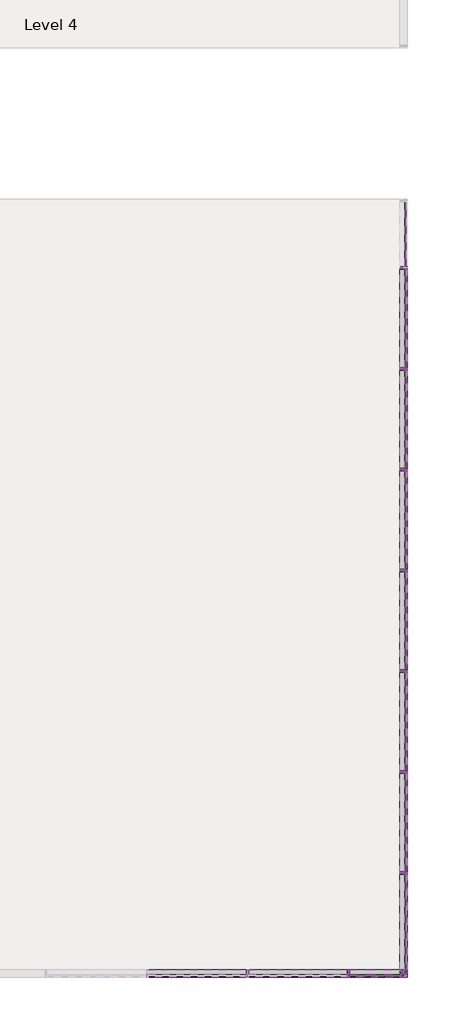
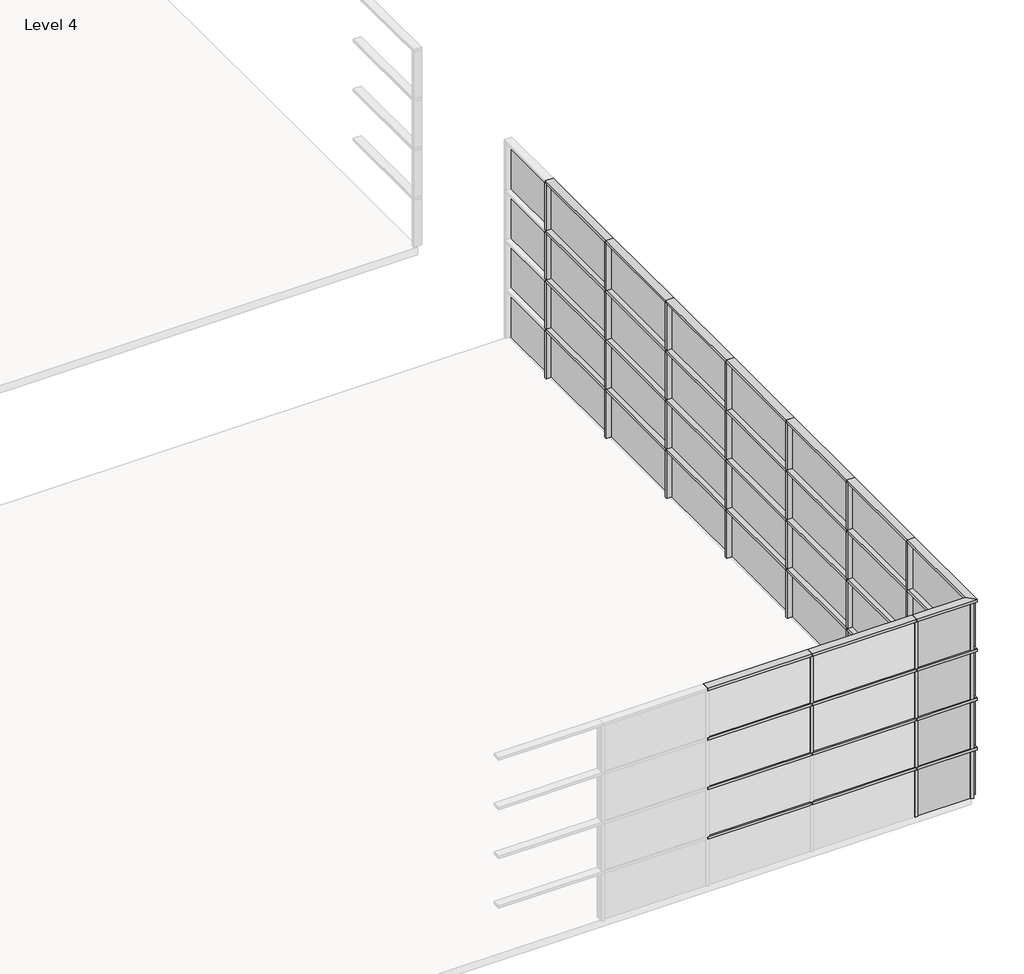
# One storey, part 3 of 5: 82 members, 36 plates.
"""IFC4 building model written with IfcOpenShell, lengths in millimetres."""

from ifc_helpers import new_model, si_unit, origin, place, context, project, spatial, transform, mapped, element, save
from components import rectangular_mullion_50_x_150mm_a053b0ca, rectangular_mullion_50_x_150mm_3a148f0f, rectangular_mullion_50_x_150mm_12a430f9, rectangular_mullion_50_x_150mm_947845bb, rectangular_mullion_50_x_150mm_f68fa77e, system_panel_glazed_751a585c, system_panel_glazed_08de6f5f, system_panel_glazed_3987acf4, system_panel_glazed_8ec8f306

model = new_model("IFC4")

# Units and contexts
model_context = context("Model", 3, world=origin())
ifc_project = project(units=[si_unit("LENGTHUNIT", "METRE", prefix="MILLI")], contexts=[model_context])

# Site, building, storey
site = spatial("IfcSite", under=ifc_project)
building = spatial("IfcBuilding", under=site)
storey = spatial("IfcBuildingStorey", under=building, Name="Level 4", Elevation=12000.0)

# Members
placement = place(None, origin())
rectangular_mullion_50_x_150mm_shape = rectangular_mullion_50_x_150mm_a053b0ca(model_context)
element("IfcMember", 1, ObjectType="Rectangular Mullion : 50 x 150mm", at=placement, inside=storey, context=model_context, shape_type="MappedRepresentation", body=[
    mapped(rectangular_mullion_50_x_150mm_shape, transform((10412.826594, -21988.7417365, 14025.0), x_axis=(1.0, 0.0, 0.0), y_axis=(0.0, -1.0, 0.0), z_axis=(0.0, 0.0, -0.9999999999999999))),
])
element("IfcMember", 2, ObjectType="Rectangular Mullion : 50 x 150mm", at=placement, inside=storey, context=model_context, shape_type="MappedRepresentation", body=[
    mapped(rectangular_mullion_50_x_150mm_shape, transform((10412.826594, -21988.7417365, 15025.0), x_axis=(1.0, 0.0, 0.0), y_axis=(0.0, -1.0, 0.0), z_axis=(0.0, 0.0, -1.0))),
])
element("IfcMember", 3, ObjectType="Rectangular Mullion : 50 x 150mm", at=placement, inside=storey, context=model_context, shape_type="MappedRepresentation", body=[
    mapped(rectangular_mullion_50_x_150mm_shape, transform((12412.826594, -21988.7417365, 12025.0), x_axis=(1.0, 0.0, 0.0), y_axis=(0.0, -1.0, 0.0), z_axis=(0.0, 0.0, -1.0))),
])
element("IfcMember", 4, ObjectType="Rectangular Mullion : 50 x 150mm", at=placement, inside=storey, context=model_context, shape_type="MappedRepresentation", body=[
    mapped(rectangular_mullion_50_x_150mm_shape, transform((12412.826594, -21988.7417365, 13025.0), x_axis=(1.0, 0.0, 0.0), y_axis=(0.0, -1.0, 0.0), z_axis=(0.0, 0.0, -1.0))),
])
element("IfcMember", 5, ObjectType="Rectangular Mullion : 50 x 150mm", at=placement, inside=storey, context=model_context, shape_type="MappedRepresentation", body=[
    mapped(rectangular_mullion_50_x_150mm_shape, transform((12412.826594, -21988.7417365, 14025.0), x_axis=(1.0, 0.0, 0.0), y_axis=(0.0, -1.0, 0.0), z_axis=(0.0, 0.0, -0.9999999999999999))),
])
element("IfcMember", 6, ObjectType="Rectangular Mullion : 50 x 150mm", at=placement, inside=storey, context=model_context, shape_type="MappedRepresentation", body=[
    mapped(rectangular_mullion_50_x_150mm_shape, transform((12412.826594, -21988.7417365, 15025.0), x_axis=(1.0, 0.0, 0.0), y_axis=(0.0, -1.0, 0.0), z_axis=(0.0, 0.0, -1.0))),
])
element("IfcMember", 7, ObjectType="Rectangular Mullion : 50 x 150mm", at=placement, inside=storey, context=model_context, shape_type="MappedRepresentation", body=[
    mapped(rectangular_mullion_50_x_150mm_shape, transform((13503.2660975, -13988.7417365, 12025.0), x_axis=(0.0, 1.0, 0.0), y_axis=(1.0, 0.0, 0.0), z_axis=(0.0, 0.0, -1.0))),
])
element("IfcMember", 8, ObjectType="Rectangular Mullion : 50 x 150mm", at=placement, inside=storey, context=model_context, shape_type="MappedRepresentation", body=[
    mapped(rectangular_mullion_50_x_150mm_shape, transform((13503.2660975, -13988.7417365, 13025.0), x_axis=(0.0, 1.0, 0.0), y_axis=(1.0, 0.0, 0.0), z_axis=(0.0, 0.0, -1.0))),
])
element("IfcMember", 9, ObjectType="Rectangular Mullion : 50 x 150mm", at=placement, inside=storey, context=model_context, shape_type="MappedRepresentation", body=[
    mapped(rectangular_mullion_50_x_150mm_shape, transform((13503.2660975, -13988.7417365, 14025.0), x_axis=(0.0, 1.0, 0.0), y_axis=(1.0, 0.0, 0.0), z_axis=(0.0, 0.0, -0.9999999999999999))),
])
element("IfcMember", 10, ObjectType="Rectangular Mullion : 50 x 150mm", at=placement, inside=storey, context=model_context, shape_type="MappedRepresentation", body=[
    mapped(rectangular_mullion_50_x_150mm_shape, transform((13503.2660975, -13988.7417365, 15025.0), x_axis=(0.0, 1.0, 0.0), y_axis=(1.0, 0.0, 0.0), z_axis=(0.0, 0.0, -1.0))),
])
element("IfcMember", 11, ObjectType="Rectangular Mullion : 50 x 150mm", at=placement, inside=storey, context=model_context, shape_type="MappedRepresentation", body=[
    mapped(rectangular_mullion_50_x_150mm_shape, transform((13503.2660975, -11988.7417365, 12025.0), x_axis=(0.0, 1.0, 0.0), y_axis=(1.0, 0.0, 0.0), z_axis=(0.0, 0.0, -1.0))),
])
element("IfcMember", 12, ObjectType="Rectangular Mullion : 50 x 150mm", at=placement, inside=storey, context=model_context, shape_type="MappedRepresentation", body=[
    mapped(rectangular_mullion_50_x_150mm_shape, transform((13503.2660975, -11988.7417365, 13025.0), x_axis=(0.0, 1.0, 0.0), y_axis=(1.0, 0.0, 0.0), z_axis=(0.0, 0.0, -1.0))),
])
element("IfcMember", 13, ObjectType="Rectangular Mullion : 50 x 150mm", at=placement, inside=storey, context=model_context, shape_type="MappedRepresentation", body=[
    mapped(rectangular_mullion_50_x_150mm_shape, transform((13503.2660975, -11988.7417365, 14025.0), x_axis=(0.0, 1.0, 0.0), y_axis=(1.0, 0.0, 0.0), z_axis=(0.0, 0.0, -0.9999999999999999))),
])
element("IfcMember", 14, ObjectType="Rectangular Mullion : 50 x 150mm", at=placement, inside=storey, context=model_context, shape_type="MappedRepresentation", body=[
    mapped(rectangular_mullion_50_x_150mm_shape, transform((13503.2660975, -11988.7417365, 15025.0), x_axis=(0.0, 1.0, 0.0), y_axis=(1.0, 0.0, 0.0), z_axis=(0.0, 0.0, -1.0))),
])
element("IfcMember", 15, ObjectType="Rectangular Mullion : 50 x 150mm", at=placement, inside=storey, context=model_context, shape_type="MappedRepresentation", body=[
    mapped(rectangular_mullion_50_x_150mm_shape, transform((13503.2660975, -9988.7417365, 12025.0), x_axis=(0.0, 1.0, 0.0), y_axis=(1.0, 0.0, 0.0), z_axis=(0.0, 0.0, -1.0))),
])
element("IfcMember", 16, ObjectType="Rectangular Mullion : 50 x 150mm", at=placement, inside=storey, context=model_context, shape_type="MappedRepresentation", body=[
    mapped(rectangular_mullion_50_x_150mm_shape, transform((13503.2660975, -9988.7417365, 13025.0), x_axis=(0.0, 1.0, 0.0), y_axis=(1.0, 0.0, 0.0), z_axis=(0.0, 0.0, -1.0))),
])
element("IfcMember", 17, ObjectType="Rectangular Mullion : 50 x 150mm", at=placement, inside=storey, context=model_context, shape_type="MappedRepresentation", body=[
    mapped(rectangular_mullion_50_x_150mm_shape, transform((13503.2660975, -9988.7417365, 14025.0), x_axis=(0.0, 1.0, 0.0), y_axis=(1.0, 0.0, 0.0), z_axis=(0.0, 0.0, -0.9999999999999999))),
])
element("IfcMember", 18, ObjectType="Rectangular Mullion : 50 x 150mm", at=placement, inside=storey, context=model_context, shape_type="MappedRepresentation", body=[
    mapped(rectangular_mullion_50_x_150mm_shape, transform((13503.2660975, -9988.7417365, 15025.0), x_axis=(0.0, 1.0, 0.0), y_axis=(1.0, 0.0, 0.0), z_axis=(0.0, 0.0, -1.0))),
])
element("IfcMember", 19, ObjectType="Rectangular Mullion : 50 x 150mm", at=placement, inside=storey, context=model_context, shape_type="MappedRepresentation", body=[
    mapped(rectangular_mullion_50_x_150mm_shape, transform((13503.2660975, -7988.7417365, 12025.0), x_axis=(0.0, 1.0, 0.0), y_axis=(1.0, 0.0, 0.0), z_axis=(0.0, 0.0, -1.0))),
])
element("IfcMember", 20, ObjectType="Rectangular Mullion : 50 x 150mm", at=placement, inside=storey, context=model_context, shape_type="MappedRepresentation", body=[
    mapped(rectangular_mullion_50_x_150mm_shape, transform((13503.2660975, -7988.7417365, 13025.0), x_axis=(0.0, 1.0, 0.0), y_axis=(1.0, 0.0, 0.0), z_axis=(0.0, 0.0, -0.9999999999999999))),
])
element("IfcMember", 21, ObjectType="Rectangular Mullion : 50 x 150mm", at=placement, inside=storey, context=model_context, shape_type="MappedRepresentation", body=[
    mapped(rectangular_mullion_50_x_150mm_shape, transform((13503.2660975, -7988.7417365, 14025.0), x_axis=(0.0, 1.0, 0.0), y_axis=(1.0, 0.0, 0.0), z_axis=(0.0, 0.0, -0.9999999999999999))),
])
element("IfcMember", 22, ObjectType="Rectangular Mullion : 50 x 150mm", at=placement, inside=storey, context=model_context, shape_type="MappedRepresentation", body=[
    mapped(rectangular_mullion_50_x_150mm_shape, transform((13503.2660975, -7988.7417365, 15025.0), x_axis=(0.0, 1.0, 0.0), y_axis=(1.0, 0.0, 0.0), z_axis=(0.0, 0.0, -1.0))),
])
element("IfcMember", 23, ObjectType="Rectangular Mullion : 50 x 150mm", at=placement, inside=storey, context=model_context, shape_type="MappedRepresentation", body=[
    mapped(rectangular_mullion_50_x_150mm_shape, transform((13503.2660975, -17988.7417365, 12025.0), x_axis=(0.0, 1.0, 0.0), y_axis=(1.0, 0.0, 0.0), z_axis=(0.0, 0.0, -1.0))),
])
element("IfcMember", 24, ObjectType="Rectangular Mullion : 50 x 150mm", at=placement, inside=storey, context=model_context, shape_type="MappedRepresentation", body=[
    mapped(rectangular_mullion_50_x_150mm_shape, transform((13503.2660975, -17988.7417365, 13025.0), x_axis=(0.0, 1.0, 0.0), y_axis=(1.0, 0.0, 0.0), z_axis=(0.0, 0.0, -1.0))),
])
element("IfcMember", 25, ObjectType="Rectangular Mullion : 50 x 150mm", at=placement, inside=storey, context=model_context, shape_type="MappedRepresentation", body=[
    mapped(rectangular_mullion_50_x_150mm_shape, transform((13503.2660975, -17988.7417365, 14025.0), x_axis=(0.0, 1.0, 0.0), y_axis=(1.0, 0.0, 0.0), z_axis=(0.0, 0.0, -1.0))),
])
element("IfcMember", 26, ObjectType="Rectangular Mullion : 50 x 150mm", at=placement, inside=storey, context=model_context, shape_type="MappedRepresentation", body=[
    mapped(rectangular_mullion_50_x_150mm_shape, transform((13503.2660975, -17988.7417365, 15025.0), x_axis=(0.0, 1.0, 0.0), y_axis=(1.0, 0.0, 0.0), z_axis=(0.0, 0.0, -1.0))),
])
element("IfcMember", 27, ObjectType="Rectangular Mullion : 50 x 150mm", at=placement, inside=storey, context=model_context, shape_type="MappedRepresentation", body=[
    mapped(rectangular_mullion_50_x_150mm_shape, transform((13503.2660975, -15988.7417365, 12025.0), x_axis=(0.0, 1.0, 0.0), y_axis=(1.0, 0.0, 0.0), z_axis=(0.0, 0.0, -1.0))),
])
element("IfcMember", 28, ObjectType="Rectangular Mullion : 50 x 150mm", at=placement, inside=storey, context=model_context, shape_type="MappedRepresentation", body=[
    mapped(rectangular_mullion_50_x_150mm_shape, transform((13503.2660975, -15988.7417365, 13025.0), x_axis=(0.0, 1.0, 0.0), y_axis=(1.0, 0.0, 0.0), z_axis=(0.0, 0.0, -1.0))),
])
element("IfcMember", 29, ObjectType="Rectangular Mullion : 50 x 150mm", at=placement, inside=storey, context=model_context, shape_type="MappedRepresentation", body=[
    mapped(rectangular_mullion_50_x_150mm_shape, transform((13503.2660975, -15988.7417365, 14025.0), x_axis=(0.0, 1.0, 0.0), y_axis=(1.0, 0.0, 0.0), z_axis=(0.0, 0.0, -1.0))),
])
element("IfcMember", 30, ObjectType="Rectangular Mullion : 50 x 150mm", at=placement, inside=storey, context=model_context, shape_type="MappedRepresentation", body=[
    mapped(rectangular_mullion_50_x_150mm_shape, transform((13503.2660975, -15988.7417365, 15025.0), x_axis=(0.0, 1.0, 0.0), y_axis=(1.0, 0.0, 0.0), z_axis=(0.0, 0.0, -1.0))),
])
element("IfcMember", 31, ObjectType="Rectangular Mullion : 50 x 150mm", at=placement, inside=storey, context=model_context, shape_type="MappedRepresentation", body=[
    mapped(rectangular_mullion_50_x_150mm_shape, transform((13503.2660975, -19988.7417365, 12025.0), x_axis=(0.0, 1.0, 0.0), y_axis=(1.0, 0.0, 0.0), z_axis=(0.0, 0.0, -1.0))),
])
element("IfcMember", 32, ObjectType="Rectangular Mullion : 50 x 150mm", at=placement, inside=storey, context=model_context, shape_type="MappedRepresentation", body=[
    mapped(rectangular_mullion_50_x_150mm_shape, transform((13503.2660975, -19988.7417365, 13025.0), x_axis=(0.0, 1.0, 0.0), y_axis=(1.0, 0.0, 0.0), z_axis=(0.0, 0.0, -1.0))),
])
element("IfcMember", 33, ObjectType="Rectangular Mullion : 50 x 150mm", at=placement, inside=storey, context=model_context, shape_type="MappedRepresentation", body=[
    mapped(rectangular_mullion_50_x_150mm_shape, transform((13503.2660975, -19988.7417365, 14025.0), x_axis=(0.0, 1.0, 0.0), y_axis=(1.0, 0.0, 0.0), z_axis=(0.0, 0.0, -1.0))),
])
element("IfcMember", 34, ObjectType="Rectangular Mullion : 50 x 150mm", at=placement, inside=storey, context=model_context, shape_type="MappedRepresentation", body=[
    mapped(rectangular_mullion_50_x_150mm_shape, transform((13503.2660975, -19988.7417365, 15025.0), x_axis=(0.0, 1.0, 0.0), y_axis=(1.0, 0.0, 0.0), z_axis=(0.0, 0.0, -1.0))),
])
rectangular_mullion_50_x_150mm_2_shape = rectangular_mullion_50_x_150mm_3a148f0f(model_context)
element("IfcMember", 35, ObjectType="Rectangular Mullion : 50 x 150mm", at=placement, inside=storey, context=model_context, shape_type="MappedRepresentation", body=[
    mapped(rectangular_mullion_50_x_150mm_2_shape, transform((10412.826594, -21988.7417365, 13000.0), x_axis=(0.0, 0.0, 1.0), y_axis=(0.0, -1.0, 0.0), z_axis=(1.0, 0.0, 0.0))),
])
element("IfcMember", 36, ObjectType="Rectangular Mullion : 50 x 150mm", at=placement, inside=storey, context=model_context, shape_type="MappedRepresentation", body=[
    mapped(rectangular_mullion_50_x_150mm_2_shape, transform((12412.826594, -21988.7417365, 13000.0), x_axis=(0.0, 0.0, 1.0), y_axis=(0.0, -1.0, 0.0), z_axis=(1.0, 0.0, 0.0))),
])
element("IfcMember", 37, ObjectType="Rectangular Mullion : 50 x 150mm", at=placement, inside=storey, context=model_context, shape_type="MappedRepresentation", body=[
    mapped(rectangular_mullion_50_x_150mm_2_shape, transform((10412.826594, -21988.7417365, 14000.0), x_axis=(0.0, 0.0, 1.0), y_axis=(0.0, -1.0, 0.0), z_axis=(1.0, 0.0, 0.0))),
])
element("IfcMember", 38, ObjectType="Rectangular Mullion : 50 x 150mm", at=placement, inside=storey, context=model_context, shape_type="MappedRepresentation", body=[
    mapped(rectangular_mullion_50_x_150mm_2_shape, transform((12412.826594, -21988.7417365, 14000.0), x_axis=(0.0, 0.0, 1.0), y_axis=(0.0, -1.0, 0.0), z_axis=(1.0, 0.0, 0.0))),
])
element("IfcMember", 39, ObjectType="Rectangular Mullion : 50 x 150mm", at=placement, inside=storey, context=model_context, shape_type="MappedRepresentation", body=[
    mapped(rectangular_mullion_50_x_150mm_2_shape, transform((10412.826594, -21988.7417365, 15000.0), x_axis=(0.0, 0.0, 1.0), y_axis=(0.0, -1.0, 0.0), z_axis=(1.0, 0.0, 0.0))),
])
element("IfcMember", 40, ObjectType="Rectangular Mullion : 50 x 150mm", at=placement, inside=storey, context=model_context, shape_type="MappedRepresentation", body=[
    mapped(rectangular_mullion_50_x_150mm_2_shape, transform((12412.826594, -21988.7417365, 15000.0), x_axis=(0.0, 0.0, 1.0), y_axis=(0.0, -1.0, 0.0), z_axis=(1.0, 0.0, 0.0))),
])
element("IfcMember", 41, ObjectType="Rectangular Mullion : 50 x 150mm", at=placement, inside=storey, context=model_context, shape_type="MappedRepresentation", body=[
    mapped(rectangular_mullion_50_x_150mm_2_shape, transform((10412.826594, -21988.7417365, 16000.0), x_axis=(0.0, 0.0, 1.0), y_axis=(0.0, -1.0, 0.0), z_axis=(1.0, 0.0, 0.0))),
])
element("IfcMember", 42, ObjectType="Rectangular Mullion : 50 x 150mm", at=placement, inside=storey, context=model_context, shape_type="MappedRepresentation", body=[
    mapped(rectangular_mullion_50_x_150mm_2_shape, transform((12412.826594, -21988.7417365, 16000.0), x_axis=(0.0, 0.0, 1.0), y_axis=(0.0, -1.0, 0.0), z_axis=(1.0, 0.0, 0.0))),
])
element("IfcMember", 43, ObjectType="Rectangular Mullion : 50 x 150mm", at=placement, inside=storey, context=model_context, shape_type="MappedRepresentation", body=[
    mapped(rectangular_mullion_50_x_150mm_2_shape, transform((13503.2660975, -17988.7417365, 13000.0), x_axis=(0.0, 0.0, 1.0), y_axis=(1.0, 0.0, 0.0), z_axis=(0.0, 1.0, 0.0))),
])
element("IfcMember", 44, ObjectType="Rectangular Mullion : 50 x 150mm", at=placement, inside=storey, context=model_context, shape_type="MappedRepresentation", body=[
    mapped(rectangular_mullion_50_x_150mm_2_shape, transform((13503.2660975, -15988.7417365, 13000.0), x_axis=(0.0, 0.0, 1.0), y_axis=(1.0, 0.0, 0.0), z_axis=(0.0, 1.0, 0.0))),
])
element("IfcMember", 45, ObjectType="Rectangular Mullion : 50 x 150mm", at=placement, inside=storey, context=model_context, shape_type="MappedRepresentation", body=[
    mapped(rectangular_mullion_50_x_150mm_2_shape, transform((13503.2660975, -13988.7417365, 13000.0), x_axis=(0.0, 0.0, 1.0), y_axis=(1.0, 0.0, 0.0), z_axis=(0.0, 1.0, 0.0))),
])
element("IfcMember", 46, ObjectType="Rectangular Mullion : 50 x 150mm", at=placement, inside=storey, context=model_context, shape_type="MappedRepresentation", body=[
    mapped(rectangular_mullion_50_x_150mm_2_shape, transform((13503.2660975, -11988.7417365, 13000.0), x_axis=(0.0, 0.0, 1.0), y_axis=(1.0, 0.0, 0.0), z_axis=(0.0, 1.0, 0.0))),
])
element("IfcMember", 47, ObjectType="Rectangular Mullion : 50 x 150mm", at=placement, inside=storey, context=model_context, shape_type="MappedRepresentation", body=[
    mapped(rectangular_mullion_50_x_150mm_2_shape, transform((13503.2660975, -9988.7417365, 13000.0), x_axis=(0.0, 0.0, 1.0), y_axis=(1.0, 0.0, 0.0), z_axis=(0.0, 1.0, 0.0))),
])
element("IfcMember", 48, ObjectType="Rectangular Mullion : 50 x 150mm", at=placement, inside=storey, context=model_context, shape_type="MappedRepresentation", body=[
    mapped(rectangular_mullion_50_x_150mm_2_shape, transform((13503.2660975, -7988.7417365, 13000.0), x_axis=(0.0, 0.0, 1.0), y_axis=(1.0, 0.0, 0.0), z_axis=(0.0, 1.0, 0.0))),
])
element("IfcMember", 49, ObjectType="Rectangular Mullion : 50 x 150mm", at=placement, inside=storey, context=model_context, shape_type="MappedRepresentation", body=[
    mapped(rectangular_mullion_50_x_150mm_2_shape, transform((13503.2660975, -17988.7417365, 14000.0), x_axis=(0.0, 0.0, 1.0), y_axis=(1.0, 0.0, 0.0), z_axis=(0.0, 1.0, 0.0))),
])
element("IfcMember", 50, ObjectType="Rectangular Mullion : 50 x 150mm", at=placement, inside=storey, context=model_context, shape_type="MappedRepresentation", body=[
    mapped(rectangular_mullion_50_x_150mm_2_shape, transform((13503.2660975, -15988.7417365, 14000.0), x_axis=(0.0, 0.0, 1.0), y_axis=(1.0, 0.0, 0.0), z_axis=(0.0, 1.0, 0.0))),
])
element("IfcMember", 51, ObjectType="Rectangular Mullion : 50 x 150mm", at=placement, inside=storey, context=model_context, shape_type="MappedRepresentation", body=[
    mapped(rectangular_mullion_50_x_150mm_2_shape, transform((13503.2660975, -13988.7417365, 14000.0), x_axis=(0.0, 0.0, 1.0), y_axis=(1.0, 0.0, 0.0), z_axis=(0.0, 1.0, 0.0))),
])
element("IfcMember", 52, ObjectType="Rectangular Mullion : 50 x 150mm", at=placement, inside=storey, context=model_context, shape_type="MappedRepresentation", body=[
    mapped(rectangular_mullion_50_x_150mm_2_shape, transform((13503.2660975, -11988.7417365, 14000.0), x_axis=(0.0, 0.0, 1.0), y_axis=(1.0, 0.0, 0.0), z_axis=(0.0, 1.0, 0.0))),
])
element("IfcMember", 53, ObjectType="Rectangular Mullion : 50 x 150mm", at=placement, inside=storey, context=model_context, shape_type="MappedRepresentation", body=[
    mapped(rectangular_mullion_50_x_150mm_2_shape, transform((13503.2660975, -9988.7417365, 14000.0), x_axis=(0.0, 0.0, 1.0), y_axis=(1.0, 0.0, 0.0), z_axis=(0.0, 1.0, 0.0))),
])
element("IfcMember", 54, ObjectType="Rectangular Mullion : 50 x 150mm", at=placement, inside=storey, context=model_context, shape_type="MappedRepresentation", body=[
    mapped(rectangular_mullion_50_x_150mm_2_shape, transform((13503.2660975, -7988.7417365, 14000.0), x_axis=(0.0, 0.0, 1.0), y_axis=(1.0, 0.0, 0.0), z_axis=(0.0, 1.0, 0.0))),
])
element("IfcMember", 55, ObjectType="Rectangular Mullion : 50 x 150mm", at=placement, inside=storey, context=model_context, shape_type="MappedRepresentation", body=[
    mapped(rectangular_mullion_50_x_150mm_2_shape, transform((13503.2660975, -17988.7417365, 15000.0), x_axis=(0.0, 0.0, 1.0), y_axis=(1.0, 0.0, 0.0), z_axis=(0.0, 1.0, 0.0))),
])
element("IfcMember", 56, ObjectType="Rectangular Mullion : 50 x 150mm", at=placement, inside=storey, context=model_context, shape_type="MappedRepresentation", body=[
    mapped(rectangular_mullion_50_x_150mm_2_shape, transform((13503.2660975, -15988.7417365, 15000.0), x_axis=(0.0, 0.0, 1.0), y_axis=(1.0, 0.0, 0.0), z_axis=(0.0, 1.0, 0.0))),
])
element("IfcMember", 57, ObjectType="Rectangular Mullion : 50 x 150mm", at=placement, inside=storey, context=model_context, shape_type="MappedRepresentation", body=[
    mapped(rectangular_mullion_50_x_150mm_2_shape, transform((13503.2660975, -13988.7417365, 15000.0), x_axis=(0.0, 0.0, 1.0), y_axis=(1.0, 0.0, 0.0), z_axis=(0.0, 1.0, 0.0))),
])
element("IfcMember", 58, ObjectType="Rectangular Mullion : 50 x 150mm", at=placement, inside=storey, context=model_context, shape_type="MappedRepresentation", body=[
    mapped(rectangular_mullion_50_x_150mm_2_shape, transform((13503.2660975, -11988.7417365, 15000.0), x_axis=(0.0, 0.0, 1.0), y_axis=(1.0, 0.0, 0.0), z_axis=(0.0, 1.0, 0.0))),
])
element("IfcMember", 59, ObjectType="Rectangular Mullion : 50 x 150mm", at=placement, inside=storey, context=model_context, shape_type="MappedRepresentation", body=[
    mapped(rectangular_mullion_50_x_150mm_2_shape, transform((13503.2660975, -9988.7417365, 15000.0), x_axis=(0.0, 0.0, 1.0), y_axis=(1.0, 0.0, 0.0), z_axis=(0.0, 1.0, 0.0))),
])
element("IfcMember", 60, ObjectType="Rectangular Mullion : 50 x 150mm", at=placement, inside=storey, context=model_context, shape_type="MappedRepresentation", body=[
    mapped(rectangular_mullion_50_x_150mm_2_shape, transform((13503.2660975, -7988.7417365, 15000.0), x_axis=(0.0, 0.0, 1.0), y_axis=(1.0, 0.0, 0.0), z_axis=(0.0, 1.0, 0.0))),
])
element("IfcMember", 61, ObjectType="Rectangular Mullion : 50 x 150mm", at=placement, inside=storey, context=model_context, shape_type="MappedRepresentation", body=[
    mapped(rectangular_mullion_50_x_150mm_2_shape, transform((13503.2660975, -17988.7417365, 16000.0), x_axis=(0.0, 0.0, 1.0), y_axis=(1.0, 0.0, 0.0), z_axis=(0.0, 1.0, 0.0))),
])
element("IfcMember", 62, ObjectType="Rectangular Mullion : 50 x 150mm", at=placement, inside=storey, context=model_context, shape_type="MappedRepresentation", body=[
    mapped(rectangular_mullion_50_x_150mm_2_shape, transform((13503.2660975, -15988.7417365, 16000.0), x_axis=(0.0, 0.0, 1.0), y_axis=(1.0, 0.0, 0.0), z_axis=(0.0, 1.0, 0.0))),
])
element("IfcMember", 63, ObjectType="Rectangular Mullion : 50 x 150mm", at=placement, inside=storey, context=model_context, shape_type="MappedRepresentation", body=[
    mapped(rectangular_mullion_50_x_150mm_2_shape, transform((13503.2660975, -13988.7417365, 16000.0), x_axis=(0.0, 0.0, 1.0), y_axis=(1.0, 0.0, 0.0), z_axis=(0.0, 1.0, 0.0))),
])
element("IfcMember", 64, ObjectType="Rectangular Mullion : 50 x 150mm", at=placement, inside=storey, context=model_context, shape_type="MappedRepresentation", body=[
    mapped(rectangular_mullion_50_x_150mm_2_shape, transform((13503.2660975, -11988.7417365, 16000.0), x_axis=(0.0, 0.0, 1.0), y_axis=(1.0, 0.0, 0.0), z_axis=(0.0, 1.0, 0.0))),
])
element("IfcMember", 65, ObjectType="Rectangular Mullion : 50 x 150mm", at=placement, inside=storey, context=model_context, shape_type="MappedRepresentation", body=[
    mapped(rectangular_mullion_50_x_150mm_2_shape, transform((13503.2660975, -9988.7417365, 16000.0), x_axis=(0.0, 0.0, 1.0), y_axis=(1.0, 0.0, 0.0), z_axis=(0.0, 1.0, 0.0))),
])
element("IfcMember", 66, ObjectType="Rectangular Mullion : 50 x 150mm", at=placement, inside=storey, context=model_context, shape_type="MappedRepresentation", body=[
    mapped(rectangular_mullion_50_x_150mm_2_shape, transform((13503.2660975, -7988.7417365, 16000.0), x_axis=(0.0, 0.0, 1.0), y_axis=(1.0, 0.0, 0.0), z_axis=(0.0, 1.0, 0.0))),
])
rectangular_mullion_50_x_150mm_3_shape = rectangular_mullion_50_x_150mm_12a430f9(model_context)
element("IfcMember", 67, ObjectType="Rectangular Mullion : 50 x 150mm", at=placement, inside=storey, context=model_context, shape_type="MappedRepresentation", body=[
    mapped(rectangular_mullion_50_x_150mm_3_shape, transform((13503.2660975, -21988.7417365, 12975.0), x_axis=(0.0, -1.0, 0.0), y_axis=(1.0, 0.0, 0.0), z_axis=(0.0, 0.0, 1.0))),
])
element("IfcMember", 68, ObjectType="Rectangular Mullion : 50 x 150mm", at=placement, inside=storey, context=model_context, shape_type="MappedRepresentation", body=[
    mapped(rectangular_mullion_50_x_150mm_3_shape, transform((13503.2660975, -21988.7417365, 13975.0), x_axis=(0.0, -1.0, 0.0), y_axis=(1.0, 0.0, 0.0), z_axis=(0.0, 0.0, 1.0))),
])
element("IfcMember", 69, ObjectType="Rectangular Mullion : 50 x 150mm", at=placement, inside=storey, context=model_context, shape_type="MappedRepresentation", body=[
    mapped(rectangular_mullion_50_x_150mm_3_shape, transform((13503.2660975, -21988.7417365, 14975.0), x_axis=(0.0, -1.0, 0.0), y_axis=(1.0, 0.0, 0.0), z_axis=(0.0, 0.0, 1.0))),
])
element("IfcMember", 70, ObjectType="Rectangular Mullion : 50 x 150mm", at=placement, inside=storey, context=model_context, shape_type="MappedRepresentation", body=[
    mapped(rectangular_mullion_50_x_150mm_3_shape, transform((13503.2660975, -21988.7417365, 15975.0), x_axis=(0.0, -1.0, 0.0), y_axis=(1.0, 0.0, 0.0), z_axis=(0.0, 0.0, 1.0))),
])
element("IfcMember", 71, ObjectType="Rectangular Mullion : 50 x 150mm", at=placement, inside=storey, context=model_context, shape_type="MappedRepresentation", body=[
    mapped(rectangular_mullion_50_x_150mm_3_shape, transform((13503.2660975, -21988.7417365, 12025.0), x_axis=(1.0, 0.0, 0.0), y_axis=(0.0, -1.0, 0.0), z_axis=(0.0, 0.0, -1.0))),
])
element("IfcMember", 72, ObjectType="Rectangular Mullion : 50 x 150mm", at=placement, inside=storey, context=model_context, shape_type="MappedRepresentation", body=[
    mapped(rectangular_mullion_50_x_150mm_3_shape, transform((13503.2660975, -21988.7417365, 13025.0), x_axis=(1.0, 0.0, 0.0), y_axis=(0.0, -1.0, 0.0), z_axis=(0.0, 0.0, -1.0))),
])
element("IfcMember", 73, ObjectType="Rectangular Mullion : 50 x 150mm", at=placement, inside=storey, context=model_context, shape_type="MappedRepresentation", body=[
    mapped(rectangular_mullion_50_x_150mm_3_shape, transform((13503.2660975, -21988.7417365, 14025.0), x_axis=(1.0, 0.0, 0.0), y_axis=(0.0, -1.0, 0.0), z_axis=(0.0, 0.0, -1.0))),
])
element("IfcMember", 74, ObjectType="Rectangular Mullion : 50 x 150mm", at=placement, inside=storey, context=model_context, shape_type="MappedRepresentation", body=[
    mapped(rectangular_mullion_50_x_150mm_3_shape, transform((13503.2660975, -21988.7417365, 15025.0), x_axis=(1.0, 0.0, 0.0), y_axis=(0.0, -1.0, 0.0), z_axis=(0.0, 0.0, -1.0))),
])
rectangular_mullion_50_x_150mm_4_shape = rectangular_mullion_50_x_150mm_947845bb(model_context)
element("IfcMember", 75, ObjectType="Rectangular Mullion : 50 x 150mm", at=placement, inside=storey, context=model_context, shape_type="MappedRepresentation", body=[
    mapped(rectangular_mullion_50_x_150mm_4_shape, transform((13503.2660975, -19988.7417365, 13000.0), x_axis=(0.0, 0.0, 1.0), y_axis=(1.0, 0.0, 0.0), z_axis=(0.0, 1.0, 0.0))),
])
element("IfcMember", 76, ObjectType="Rectangular Mullion : 50 x 150mm", at=placement, inside=storey, context=model_context, shape_type="MappedRepresentation", body=[
    mapped(rectangular_mullion_50_x_150mm_4_shape, transform((13503.2660975, -19988.7417365, 14000.0), x_axis=(0.0, 0.0, 1.0), y_axis=(1.0, 0.0, 0.0), z_axis=(0.0, 1.0, 0.0))),
])
element("IfcMember", 77, ObjectType="Rectangular Mullion : 50 x 150mm", at=placement, inside=storey, context=model_context, shape_type="MappedRepresentation", body=[
    mapped(rectangular_mullion_50_x_150mm_4_shape, transform((13503.2660975, -19988.7417365, 15000.0), x_axis=(0.0, 0.0, 1.0), y_axis=(1.0, 0.0, 0.0), z_axis=(0.0, 1.0, 0.0))),
])
element("IfcMember", 78, ObjectType="Rectangular Mullion : 50 x 150mm", at=placement, inside=storey, context=model_context, shape_type="MappedRepresentation", body=[
    mapped(rectangular_mullion_50_x_150mm_4_shape, transform((13503.2660975, -19988.7417365, 16000.0), x_axis=(0.0, 0.0, 1.0), y_axis=(1.0, 0.0, 0.0), z_axis=(0.0, 1.0, 0.0))),
])
rectangular_mullion_50_x_150mm_5_shape = rectangular_mullion_50_x_150mm_f68fa77e(model_context)
element("IfcMember", 79, ObjectType="Rectangular Mullion : 50 x 150mm", at=placement, inside=storey, context=model_context, shape_type="MappedRepresentation", body=[
    mapped(rectangular_mullion_50_x_150mm_5_shape, transform((13503.2660975, -21988.7417365, 13000.0), x_axis=(0.0, 0.0, 1.0), y_axis=(0.0, -1.0, 0.0), z_axis=(0.9999999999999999, 0.0, 0.0))),
])
element("IfcMember", 80, ObjectType="Rectangular Mullion : 50 x 150mm", at=placement, inside=storey, context=model_context, shape_type="MappedRepresentation", body=[
    mapped(rectangular_mullion_50_x_150mm_5_shape, transform((13503.2660975, -21988.7417365, 14000.0), x_axis=(0.0, 0.0, 1.0), y_axis=(0.0, -1.0, 0.0), z_axis=(0.9999999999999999, 0.0, 0.0))),
])
element("IfcMember", 81, ObjectType="Rectangular Mullion : 50 x 150mm", at=placement, inside=storey, context=model_context, shape_type="MappedRepresentation", body=[
    mapped(rectangular_mullion_50_x_150mm_5_shape, transform((13503.2660975, -21988.7417365, 15000.0), x_axis=(0.0, 0.0, 1.0), y_axis=(0.0, -1.0, 0.0), z_axis=(0.9999999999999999, 0.0, 0.0))),
])
element("IfcMember", 82, ObjectType="Rectangular Mullion : 50 x 150mm", at=placement, inside=storey, context=model_context, shape_type="MappedRepresentation", body=[
    mapped(rectangular_mullion_50_x_150mm_5_shape, transform((13503.2660975, -21988.7417365, 16000.0), x_axis=(0.0, 0.0, 1.0), y_axis=(0.0, -1.0, 0.0), z_axis=(0.9999999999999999, 0.0, 0.0))),
])

# Plates
system_panel_glazed_shape = system_panel_glazed_751a585c(model_context)
element("IfcPlate", 83, ObjectType="System Panel : Glazed", at=placement, inside=storey, context=model_context, shape_type="MappedRepresentation", body=[
    mapped(system_panel_glazed_shape, transform((13503.2660975, -21938.7417365, 12500.0), x_axis=(0.0, 0.0, 1.0), y_axis=(1.0, 0.0, 0.0), z_axis=(0.0, 1.0, 0.0))),
])
element("IfcPlate", 84, ObjectType="System Panel : Glazed", at=placement, inside=storey, context=model_context, shape_type="MappedRepresentation", body=[
    mapped(system_panel_glazed_shape, transform((13503.2660975, -21938.7417365, 13500.0), x_axis=(0.0, 0.0, 1.0), y_axis=(1.0, 0.0, 0.0), z_axis=(0.0, 1.0, 0.0))),
])
element("IfcPlate", 85, ObjectType="System Panel : Glazed", at=placement, inside=storey, context=model_context, shape_type="MappedRepresentation", body=[
    mapped(system_panel_glazed_shape, transform((13503.2660975, -21938.7417365, 14500.0), x_axis=(0.0, 0.0, 1.0), y_axis=(1.0, 0.0, 0.0), z_axis=(0.0, 1.0, 0.0))),
])
element("IfcPlate", 86, ObjectType="System Panel : Glazed", at=placement, inside=storey, context=model_context, shape_type="MappedRepresentation", body=[
    mapped(system_panel_glazed_shape, transform((13503.2660975, -21938.7417365, 15500.0), x_axis=(0.0, 0.0, 1.0), y_axis=(1.0, 0.0, 0.0), z_axis=(0.0, 1.0, 0.0))),
])
system_panel_glazed_2_shape = system_panel_glazed_08de6f5f(model_context)
element("IfcPlate", 87, ObjectType="System Panel : Glazed", at=placement, inside=storey, context=model_context, shape_type="MappedRepresentation", body=[
    mapped(system_panel_glazed_2_shape, transform((13503.2660975, -19963.7417365, 12500.0), x_axis=(0.0, 0.0, 1.0), y_axis=(1.0, 0.0, 0.0), z_axis=(0.0, 1.0, 0.0))),
])
element("IfcPlate", 88, ObjectType="System Panel : Glazed", at=placement, inside=storey, context=model_context, shape_type="MappedRepresentation", body=[
    mapped(system_panel_glazed_2_shape, transform((13503.2660975, -17963.7417365, 12500.0), x_axis=(0.0, 0.0, 1.0), y_axis=(1.0, 0.0, 0.0), z_axis=(0.0, 1.0, 0.0))),
])
element("IfcPlate", 89, ObjectType="System Panel : Glazed", at=placement, inside=storey, context=model_context, shape_type="MappedRepresentation", body=[
    mapped(system_panel_glazed_2_shape, transform((13503.2660975, -15963.7417365, 12500.0), x_axis=(0.0, 0.0, 1.0), y_axis=(1.0, 0.0, 0.0), z_axis=(0.0, 1.0, 0.0))),
])
element("IfcPlate", 90, ObjectType="System Panel : Glazed", at=placement, inside=storey, context=model_context, shape_type="MappedRepresentation", body=[
    mapped(system_panel_glazed_2_shape, transform((13503.2660975, -13963.7417365, 12500.0), x_axis=(0.0, 0.0, 1.0), y_axis=(1.0, 0.0, 0.0), z_axis=(0.0, 1.0, 0.0))),
])
element("IfcPlate", 91, ObjectType="System Panel : Glazed", at=placement, inside=storey, context=model_context, shape_type="MappedRepresentation", body=[
    mapped(system_panel_glazed_2_shape, transform((13503.2660975, -11963.7417365, 12500.0), x_axis=(0.0, 0.0, 1.0), y_axis=(1.0, 0.0, 0.0), z_axis=(0.0, 1.0, 0.0))),
])
element("IfcPlate", 92, ObjectType="System Panel : Glazed", at=placement, inside=storey, context=model_context, shape_type="MappedRepresentation", body=[
    mapped(system_panel_glazed_2_shape, transform((13503.2660975, -9963.7417365, 12500.0), x_axis=(0.0, 0.0, 1.0), y_axis=(1.0, 0.0, 0.0), z_axis=(0.0, 1.0, 0.0))),
])
element("IfcPlate", 93, ObjectType="System Panel : Glazed", at=placement, inside=storey, context=model_context, shape_type="MappedRepresentation", body=[
    mapped(system_panel_glazed_2_shape, transform((13503.2660975, -19963.7417365, 13500.0), x_axis=(0.0, 0.0, 1.0), y_axis=(1.0, 0.0, 0.0), z_axis=(0.0, 1.0, 0.0))),
])
element("IfcPlate", 94, ObjectType="System Panel : Glazed", at=placement, inside=storey, context=model_context, shape_type="MappedRepresentation", body=[
    mapped(system_panel_glazed_2_shape, transform((13503.2660975, -17963.7417365, 13500.0), x_axis=(0.0, 0.0, 1.0), y_axis=(1.0, 0.0, 0.0), z_axis=(0.0, 1.0, 0.0))),
])
element("IfcPlate", 95, ObjectType="System Panel : Glazed", at=placement, inside=storey, context=model_context, shape_type="MappedRepresentation", body=[
    mapped(system_panel_glazed_2_shape, transform((13503.2660975, -15963.7417365, 13500.0), x_axis=(0.0, 0.0, 1.0), y_axis=(1.0, 0.0, 0.0), z_axis=(0.0, 1.0, 0.0))),
])
element("IfcPlate", 96, ObjectType="System Panel : Glazed", at=placement, inside=storey, context=model_context, shape_type="MappedRepresentation", body=[
    mapped(system_panel_glazed_2_shape, transform((13503.2660975, -13963.7417365, 13500.0), x_axis=(0.0, 0.0, 1.0), y_axis=(1.0, 0.0, 0.0), z_axis=(0.0, 1.0, 0.0))),
])
element("IfcPlate", 97, ObjectType="System Panel : Glazed", at=placement, inside=storey, context=model_context, shape_type="MappedRepresentation", body=[
    mapped(system_panel_glazed_2_shape, transform((13503.2660975, -11963.7417365, 13500.0), x_axis=(0.0, 0.0, 1.0), y_axis=(1.0, 0.0, 0.0), z_axis=(0.0, 1.0, 0.0))),
])
element("IfcPlate", 98, ObjectType="System Panel : Glazed", at=placement, inside=storey, context=model_context, shape_type="MappedRepresentation", body=[
    mapped(system_panel_glazed_2_shape, transform((13503.2660975, -9963.7417365, 13500.0), x_axis=(0.0, 0.0, 1.0), y_axis=(1.0, 0.0, 0.0), z_axis=(0.0, 1.0, 0.0))),
])
element("IfcPlate", 99, ObjectType="System Panel : Glazed", at=placement, inside=storey, context=model_context, shape_type="MappedRepresentation", body=[
    mapped(system_panel_glazed_2_shape, transform((13503.2660975, -19963.7417365, 14500.0), x_axis=(0.0, 0.0, 1.0), y_axis=(1.0, 0.0, 0.0), z_axis=(0.0, 1.0, 0.0))),
])
element("IfcPlate", 100, ObjectType="System Panel : Glazed", at=placement, inside=storey, context=model_context, shape_type="MappedRepresentation", body=[
    mapped(system_panel_glazed_2_shape, transform((13503.2660975, -17963.7417365, 14500.0), x_axis=(0.0, 0.0, 1.0), y_axis=(1.0, 0.0, 0.0), z_axis=(0.0, 1.0, 0.0))),
])
element("IfcPlate", 101, ObjectType="System Panel : Glazed", at=placement, inside=storey, context=model_context, shape_type="MappedRepresentation", body=[
    mapped(system_panel_glazed_2_shape, transform((13503.2660975, -15963.7417365, 14500.0), x_axis=(0.0, 0.0, 1.0), y_axis=(1.0, 0.0, 0.0), z_axis=(0.0, 1.0, 0.0))),
])
element("IfcPlate", 102, ObjectType="System Panel : Glazed", at=placement, inside=storey, context=model_context, shape_type="MappedRepresentation", body=[
    mapped(system_panel_glazed_2_shape, transform((13503.2660975, -13963.7417365, 14500.0), x_axis=(0.0, 0.0, 1.0), y_axis=(1.0, 0.0, 0.0), z_axis=(0.0, 1.0, 0.0))),
])
element("IfcPlate", 103, ObjectType="System Panel : Glazed", at=placement, inside=storey, context=model_context, shape_type="MappedRepresentation", body=[
    mapped(system_panel_glazed_2_shape, transform((13503.2660975, -11963.7417365, 14500.0), x_axis=(0.0, 0.0, 1.0), y_axis=(1.0, 0.0, 0.0), z_axis=(0.0, 1.0, 0.0))),
])
element("IfcPlate", 104, ObjectType="System Panel : Glazed", at=placement, inside=storey, context=model_context, shape_type="MappedRepresentation", body=[
    mapped(system_panel_glazed_2_shape, transform((13503.2660975, -9963.7417365, 14500.0), x_axis=(0.0, 0.0, 1.0), y_axis=(1.0, 0.0, 0.0), z_axis=(0.0, 1.0, 0.0))),
])
element("IfcPlate", 105, ObjectType="System Panel : Glazed", at=placement, inside=storey, context=model_context, shape_type="MappedRepresentation", body=[
    mapped(system_panel_glazed_2_shape, transform((13503.2660975, -19963.7417365, 15500.0), x_axis=(0.0, 0.0, 1.0), y_axis=(1.0, 0.0, 0.0), z_axis=(0.0, 1.0, 0.0))),
])
element("IfcPlate", 106, ObjectType="System Panel : Glazed", at=placement, inside=storey, context=model_context, shape_type="MappedRepresentation", body=[
    mapped(system_panel_glazed_2_shape, transform((13503.2660975, -17963.7417365, 15500.0), x_axis=(0.0, 0.0, 1.0), y_axis=(1.0, 0.0, 0.0), z_axis=(0.0, 1.0, 0.0))),
])
element("IfcPlate", 107, ObjectType="System Panel : Glazed", at=placement, inside=storey, context=model_context, shape_type="MappedRepresentation", body=[
    mapped(system_panel_glazed_2_shape, transform((13503.2660975, -15963.7417365, 15500.0), x_axis=(0.0, 0.0, 1.0), y_axis=(1.0, 0.0, 0.0), z_axis=(0.0, 1.0, 0.0))),
])
element("IfcPlate", 108, ObjectType="System Panel : Glazed", at=placement, inside=storey, context=model_context, shape_type="MappedRepresentation", body=[
    mapped(system_panel_glazed_2_shape, transform((13503.2660975, -13963.7417365, 15500.0), x_axis=(0.0, 0.0, 1.0), y_axis=(1.0, 0.0, 0.0), z_axis=(0.0, 1.0, 0.0))),
])
element("IfcPlate", 109, ObjectType="System Panel : Glazed", at=placement, inside=storey, context=model_context, shape_type="MappedRepresentation", body=[
    mapped(system_panel_glazed_2_shape, transform((13503.2660975, -11963.7417365, 15500.0), x_axis=(0.0, 0.0, 1.0), y_axis=(1.0, 0.0, 0.0), z_axis=(0.0, 1.0, 0.0))),
])
element("IfcPlate", 110, ObjectType="System Panel : Glazed", at=placement, inside=storey, context=model_context, shape_type="MappedRepresentation", body=[
    mapped(system_panel_glazed_2_shape, transform((13503.2660975, -9963.7417365, 15500.0), x_axis=(0.0, 0.0, 1.0), y_axis=(1.0, 0.0, 0.0), z_axis=(0.0, 1.0, 0.0))),
])
system_panel_glazed_3_shape = system_panel_glazed_3987acf4(model_context)
element("IfcPlate", 111, ObjectType="System Panel : Glazed", at=placement, inside=storey, context=model_context, shape_type="MappedRepresentation", body=[
    mapped(system_panel_glazed_3_shape, transform((12437.826594, -21988.7417365, 12500.0), x_axis=(0.0, 0.0, 1.0), y_axis=(0.0, -1.0, 0.0), z_axis=(1.0, 0.0, 0.0))),
])
element("IfcPlate", 112, ObjectType="System Panel : Glazed", at=placement, inside=storey, context=model_context, shape_type="MappedRepresentation", body=[
    mapped(system_panel_glazed_3_shape, transform((12437.826594, -21988.7417365, 13500.0), x_axis=(0.0, 0.0, 1.0), y_axis=(0.0, -1.0, 0.0), z_axis=(1.0, 0.0, 0.0))),
])
element("IfcPlate", 113, ObjectType="System Panel : Glazed", at=placement, inside=storey, context=model_context, shape_type="MappedRepresentation", body=[
    mapped(system_panel_glazed_3_shape, transform((12437.826594, -21988.7417365, 14500.0), x_axis=(0.0, 0.0, 1.0), y_axis=(0.0, -1.0, 0.0), z_axis=(1.0, 0.0, 0.0))),
])
element("IfcPlate", 114, ObjectType="System Panel : Glazed", at=placement, inside=storey, context=model_context, shape_type="MappedRepresentation", body=[
    mapped(system_panel_glazed_3_shape, transform((12437.826594, -21988.7417365, 15500.0), x_axis=(0.0, 0.0, 1.0), y_axis=(0.0, -1.0, 0.0), z_axis=(1.0, 0.0, 0.0))),
])
system_panel_glazed_4_shape = system_panel_glazed_8ec8f306(model_context)
element("IfcPlate", 115, ObjectType="System Panel : Glazed", at=placement, inside=storey, context=model_context, shape_type="MappedRepresentation", body=[
    mapped(system_panel_glazed_4_shape, transform((13503.2660975, -7963.7417365, 12500.0), x_axis=(0.0, 0.0, 1.0), y_axis=(1.0, 0.0, 0.0), z_axis=(0.0, 1.0, 0.0))),
])
element("IfcPlate", 116, ObjectType="System Panel : Glazed", at=placement, inside=storey, context=model_context, shape_type="MappedRepresentation", body=[
    mapped(system_panel_glazed_4_shape, transform((13503.2660975, -7963.7417365, 13500.0), x_axis=(0.0, 0.0, 1.0), y_axis=(1.0, 0.0, 0.0), z_axis=(0.0, 1.0, 0.0))),
])
element("IfcPlate", 117, ObjectType="System Panel : Glazed", at=placement, inside=storey, context=model_context, shape_type="MappedRepresentation", body=[
    mapped(system_panel_glazed_4_shape, transform((13503.2660975, -7963.7417365, 14500.0), x_axis=(0.0, 0.0, 1.0), y_axis=(1.0, 0.0, 0.0), z_axis=(0.0, 1.0, 0.0))),
])
element("IfcPlate", 118, ObjectType="System Panel : Glazed", at=placement, inside=storey, context=model_context, shape_type="MappedRepresentation", body=[
    mapped(system_panel_glazed_4_shape, transform((13503.2660975, -7963.7417365, 15500.0), x_axis=(0.0, 0.0, 1.0), y_axis=(1.0, 0.0, 0.0), z_axis=(0.0, 1.0, 0.0))),
])

save(model, "model.ifc")
